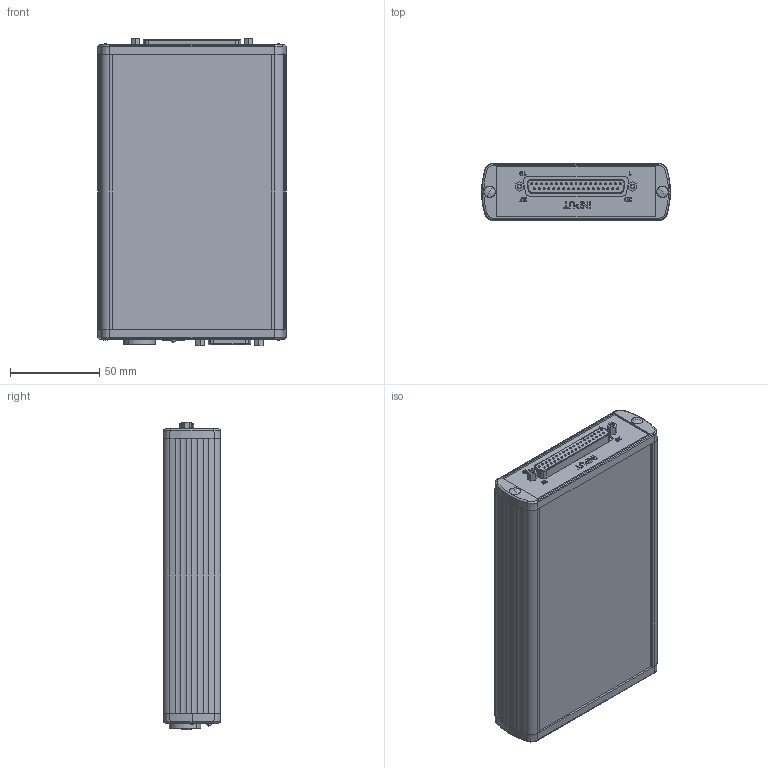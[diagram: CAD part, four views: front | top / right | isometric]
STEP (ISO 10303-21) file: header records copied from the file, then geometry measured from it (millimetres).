
FILE_DESCRIPTION (( 'STEP AP203' ), '1' );
FILE_NAME ('BSC4A-D12.STEP', '2021-12-15T23:05:02', ( '' ), ( '' ), 'SwSTEP 2.0', 'SolidWorks 2019', '' );
FILE_SCHEMA (( 'CONFIG_CONTROL_DESIGN' ));
Products named in the file (1): BSC4A-D12
Bounding box: 106 x 32 x 172.7 mm (x, y, z)
Volume: 109734.5 mm3; surface area: 115367.2 mm2
Topology: 7 solids, 8 shells, 2392 faces, 6223 edges, 3981 vertices
Faces by surface type: cylinder 852, plane 721, bspline 402, cone 165, torus 162, sphere 90
Entity records: 75759 total; most frequent: CARTESIAN_POINT 19743, ORIENTED_EDGE 12200, DIRECTION 10998, EDGE_CURVE 6100, AXIS2_PLACEMENT_3D 4063, VERTEX_POINT 3940, VECTOR 2872, LINE 2872
